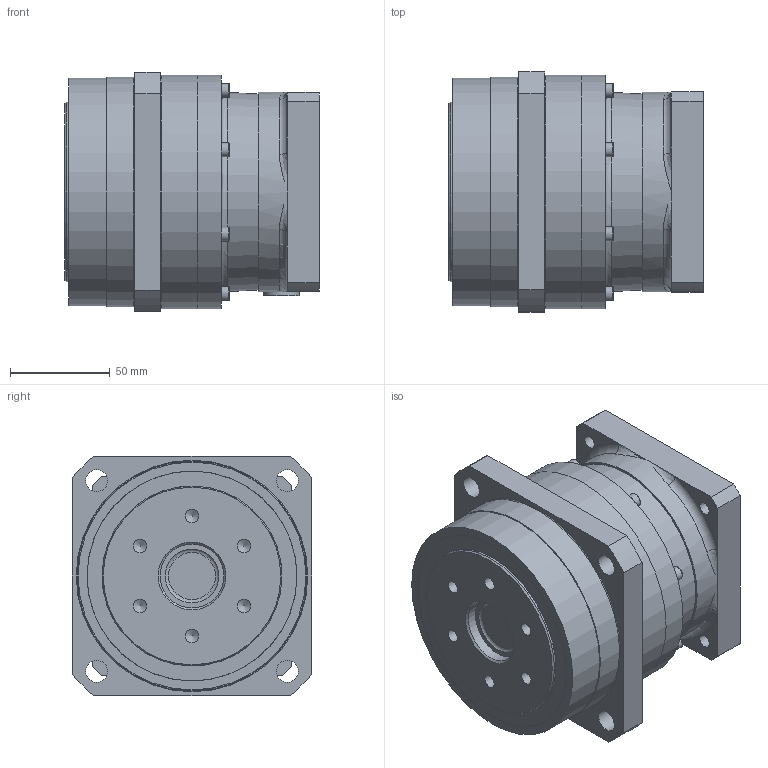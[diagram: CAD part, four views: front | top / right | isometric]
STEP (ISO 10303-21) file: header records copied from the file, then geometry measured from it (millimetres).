
FILE_DESCRIPTION(/* description */ ('ANFX-P130F-1-7Y'),/* implementation_level */ '2;1');
FILE_NAME(/* name */ 'C:\Users\ADMINI~1\AppData\Local\Temp\MM578246_ANFX-P130F-1-7Y.stp',/* time_stamp */ '2018-06-20T10:05:02+02:00',/* author */ ('Max'),/* organization */ (''),/* preprocessor_version */ 'ST-DEVELOPER v17',/* originating_system */ 'Autodesk Inventor 2018',/* authorisation */ '');
FILE_SCHEMA (('AUTOMOTIVE_DESIGN { 1 0 10303 214 3 1 1 }'));
Length unit declared in the file: millimetre
Products named in the file (16): MM579206; MMBG0004078; MMCL445LG; MMCM226LG; MAX4841G; MAW8388G; MMBG0004105; MMCH509LG; 5006008RS---G; 211554; M530A406212--G; MMAP6504G; 213742; MMCH633LG; 204123; MAW8794G
Assembly tree (29 placements, depth 3):
  MM579206
    MMBG0004078
      MMCL445LG
      MMCM226LG
      MAX4841G
      MAW8388G
    MMBG0004105
      MMCH509LG
      5006008RS---G
      211554  x8
      M530A406212--G
      MMAP6504G
      213742
    MMCH633LG
    204123  x8
    MAW8794G
Bounding box: 127.5 x 120 x 120 mm (x, y, z)
Volume: 800227.8 mm3; surface area: 251167.7 mm2
Topology: 86 solids, 87 shells, 627 faces, 1776 edges, 1258 vertices
Faces by surface type: plane 257, cylinder 181, cone 70, sphere 58, torus 55, bspline 6
Full cylindrical faces by diameter (mm): 3.242 x10, 4 x9, 4.5 x8, 4.917 x9, 6 x9, 6.6 x9, 6.647 x10, 7 x8, 10 x9, 11 x12, 15 x1, 15.2 x1, 15.6 x1, 18 x1, 20 x1, 24.5 x1, 28 x1, 32 x1, 37 x1, 38 x1, 39.4 x1, 39.6 x1, 40 x2, 42 x1, 45 x1, 45.28 x1, 49 x1, 49.2 x4, 57.6 x1, 59.5 x2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
Entity records: 15281 total; most frequent: CARTESIAN_POINT 3041, DIRECTION 2713, ORIENTED_EDGE 2166, AXIS2_PLACEMENT_3D 1210, EDGE_CURVE 1083, VERTEX_POINT 873, CIRCLE 747, EDGE_LOOP 568
